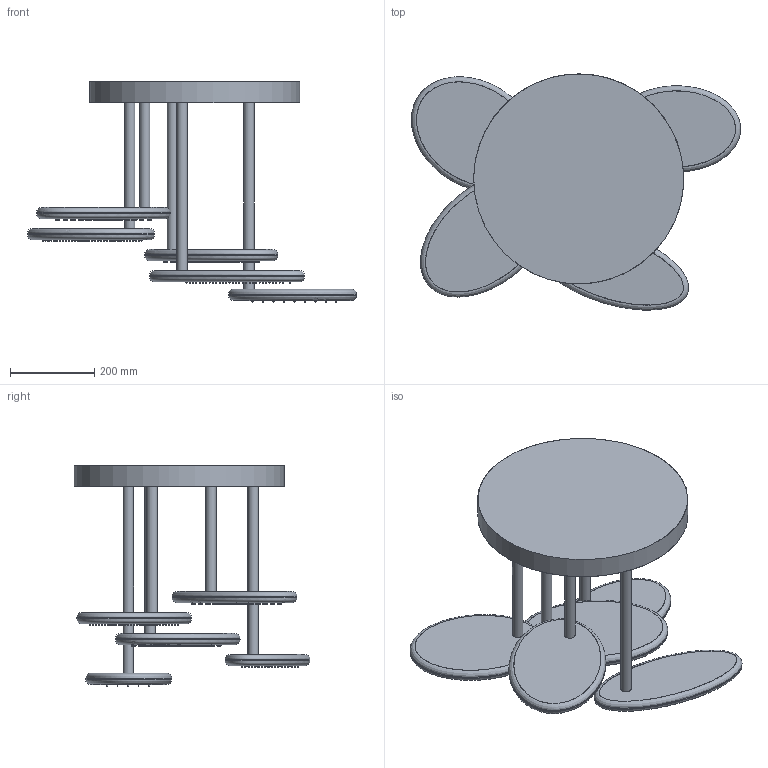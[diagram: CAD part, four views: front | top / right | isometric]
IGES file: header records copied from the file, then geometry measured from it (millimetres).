
Global section: file name: D:\Desktop\GIOVANNI\SCHEDE PRODOTTO\SOFFIONI\METEORA\3D\MOMA DESIGN_SOFFIONI_METEORA CINQUE PETALI.igs; native system: Rhinoceros ( Jan 17 2018 ); preprocessor: Trout Lake IGES 012 Jan 17 2018; date: 230613.073849; units: millimetre
Bounding box: 783.61 x 561.73 x 525.32 mm (x, y, z)
Surface area: 1369846.5 mm2 (no closed solid volume)
Topology: 0 solids, 0 shells, 2014 faces, 8573 edges, 7146 vertices
Faces by surface type: bspline 2014
